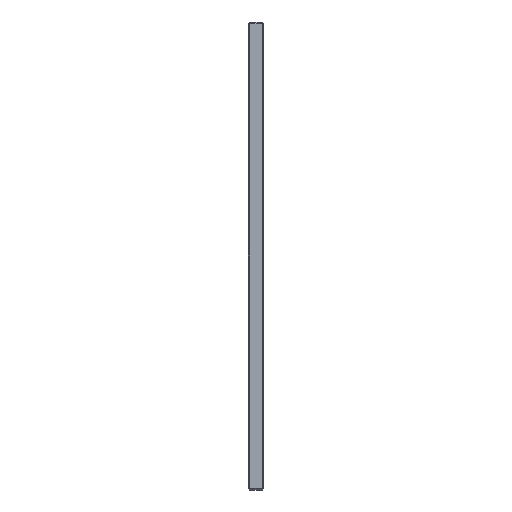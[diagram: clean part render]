
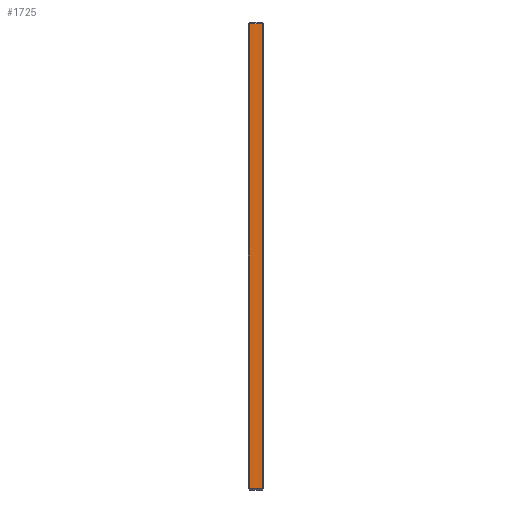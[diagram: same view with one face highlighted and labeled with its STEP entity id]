
A CAD part, left-side view. The second image highlights one B-rep face of the part: STEP entity #1725.
In plain terms, the highlighted planar face has unit normal (-1, 0, 0).
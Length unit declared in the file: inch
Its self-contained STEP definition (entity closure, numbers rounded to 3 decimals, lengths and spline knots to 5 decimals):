
#11 = LINE ( 'NONE', #1853, #2028 ) ;
#38 = ORIENTED_EDGE ( 'NONE', *, *, #738, .T. ) ;
#53 = CARTESIAN_POINT ( 'NONE',  ( -14.6875, 0.5, -7.325 ) ) ;
#137 = ORIENTED_EDGE ( 'NONE', *, *, #661, .T. ) ;
#248 = CARTESIAN_POINT ( 'NONE',  ( -14.6875, 0.45, -7.325 ) ) ;
#274 = DIRECTION ( 'NONE',  ( 0., 1., 0. ) ) ;
#381 = CARTESIAN_POINT ( 'NONE',  ( -14.6875, 0.5, -7.375 ) ) ;
#467 = LINE ( 'NONE', #53, #594 ) ;
#515 = DIRECTION ( 'NONE',  ( 0., -1., 0. ) ) ;
#542 = CARTESIAN_POINT ( 'NONE',  ( -14.6875, 0.05, -7.375 ) ) ;
#548 = AXIS2_PLACEMENT_3D ( 'NONE', #381, #1143, #701 ) ;
#571 = VECTOR ( 'NONE', #617, 39.37008 ) ;
#589 = ORIENTED_EDGE ( 'NONE', *, *, #821, .T. ) ;
#594 = VECTOR ( 'NONE', #515, 39.37008 ) ;
#605 = ORIENTED_EDGE ( 'NONE', *, *, #1452, .T. ) ;
#617 = DIRECTION ( 'NONE',  ( 0., 0., -1. ) ) ;
#641 = VERTEX_POINT ( 'NONE', #1457 ) ;
#661 = EDGE_CURVE ( 'NONE', #1857, #641, #467, .T. ) ;
#701 = DIRECTION ( 'NONE',  ( 0., 0., -1. ) ) ;
#738 = EDGE_CURVE ( 'NONE', #641, #1171, #1471, .T. ) ;
#802 = EDGE_LOOP ( 'NONE', ( #605, #137, #38, #589 ) ) ;
#821 = EDGE_CURVE ( 'NONE', #1171, #1809, #11, .T. ) ;
#1078 = VECTOR ( 'NONE', #1200, 39.37008 ) ;
#1143 = DIRECTION ( 'NONE',  ( 1., 0., 0. ) ) ;
#1171 = VERTEX_POINT ( 'NONE', #1660 ) ;
#1200 = DIRECTION ( 'NONE',  ( 0., 0., 1. ) ) ;
#1452 = EDGE_CURVE ( 'NONE', #1809, #1857, #1644, .T. ) ;
#1457 = CARTESIAN_POINT ( 'NONE',  ( -14.6875, 0.05, -7.325 ) ) ;
#1471 = LINE ( 'NONE', #542, #1078 ) ;
#1644 = LINE ( 'NONE', #2024, #571 ) ;
#1660 = CARTESIAN_POINT ( 'NONE',  ( -14.6875, 0.05, 7.325 ) ) ;
#1725 = ADVANCED_FACE ( 'Placement Plane', ( #1870 ), #1965, .F. ) ;
#1809 = VERTEX_POINT ( 'NONE', #1944 ) ;
#1853 = CARTESIAN_POINT ( 'NONE',  ( -14.6875, 0.5, 7.325 ) ) ;
#1857 = VERTEX_POINT ( 'NONE', #248 ) ;
#1870 = FACE_OUTER_BOUND ( 'NONE', #802, .T. ) ;
#1944 = CARTESIAN_POINT ( 'NONE',  ( -14.6875, 0.45, 7.325 ) ) ;
#1965 = PLANE ( 'NONE',  #548 ) ;
#2024 = CARTESIAN_POINT ( 'NONE',  ( -14.6875, 0.45, -7.375 ) ) ;
#2028 = VECTOR ( 'NONE', #274, 39.37008 ) ;
